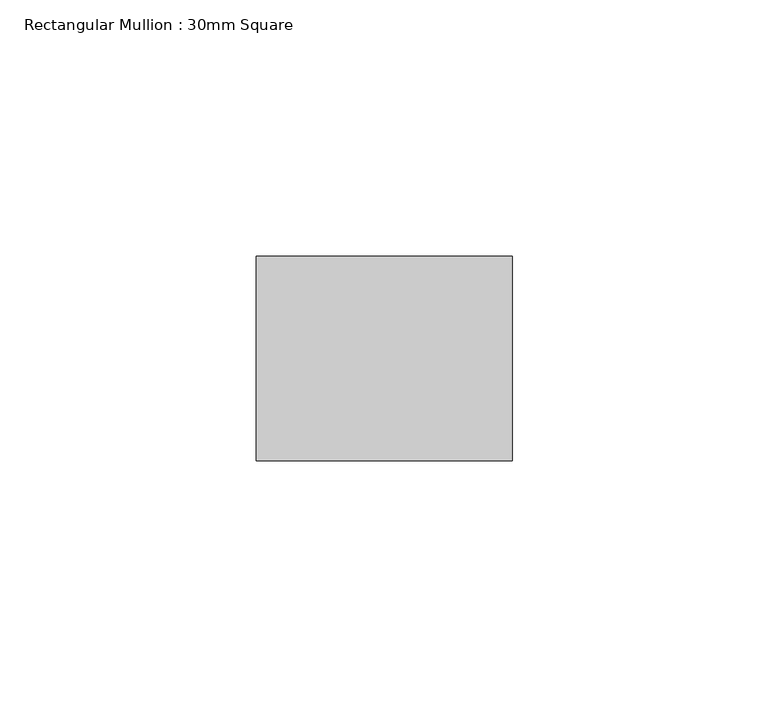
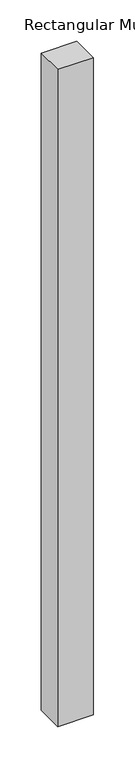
"""IFC4 building model written with IfcOpenShell, lengths in millimetres: member geometry, Rectangular Mullion : 30mm Square."""

from ifc_helpers import new_model, si_unit, frame, origin, place, context, project, spatial, polyline, outline, extrude, source, transform, mapped, element, save


def rectangular_mullion_30mm_square_06825e13(model_context):
    return source(origin(), model_context, "Body", "SweptSolid", [
        extrude(outline(polyline([(0.0, 20.0), (0.0, -20.0), (-50.0, -20.0), (-50.0, 20.0), (0.0, 20.0)])), frame((0.0, 0.0, -973.3333333), z_axis=(0.0, 0.0, 1.0), x_axis=(1.0, 0.0, 0.0)), (0.0, 0.0, 1.0), 973.3333333),
    ])


if __name__ == "__main__":
    model = new_model("IFC4")
    model_context = context("Model", 3, world=origin())
    ifc_project = project(units=[si_unit("LENGTHUNIT", "METRE", prefix="MILLI")], contexts=[model_context])
    site = spatial("IfcSite", under=ifc_project)
    building = spatial("IfcBuilding", under=site)
    placement = place(None, origin())
    rectangular_mullion_30mm_square_shape = rectangular_mullion_30mm_square_06825e13(model_context)
    element("IfcMember", 1, ObjectType="Rectangular Mullion : 30mm Square", at=placement, inside=building, context=model_context, shape_type="MappedRepresentation", body=[
        mapped(rectangular_mullion_30mm_square_shape, transform((0.0, 0.0, 0.0), x_axis=(1.0, 0.0, 0.0), y_axis=(0.0, 1.0, 0.0), z_axis=(0.0, 0.0, 1.0))),
    ])
    save(model, "model.ifc")
